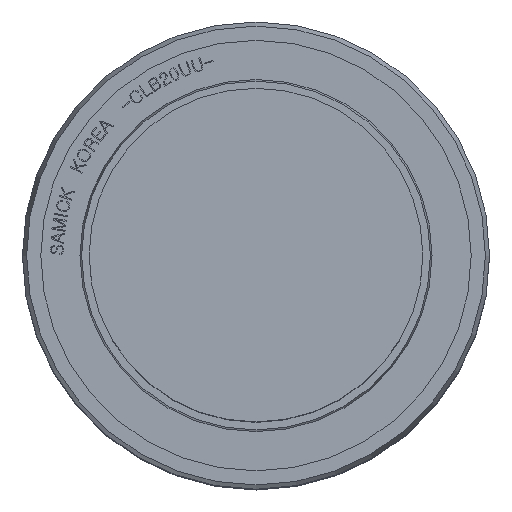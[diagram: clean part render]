
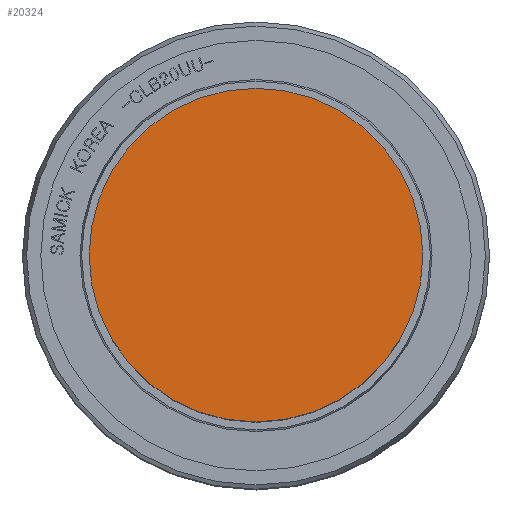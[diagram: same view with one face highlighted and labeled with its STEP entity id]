
A CAD part, top view. The second image highlights one B-rep face of the part: STEP entity #20324.
In plain terms, the highlighted planar face has unit normal (0, 0, 1).
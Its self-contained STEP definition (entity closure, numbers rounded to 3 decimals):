
#781=PLANE('',#21527);
#2599=FACE_OUTER_BOUND('',#3723,.T.);
#3723=EDGE_LOOP('',(#13280));
#7759=CIRCLE('',#21521,10.);
#8107=VERTEX_POINT('',#25459);
#10165=EDGE_CURVE('',#8107,#8107,#7759,.T.);
#13280=ORIENTED_EDGE('',*,*,#10165,.T.);
#20324=ADVANCED_FACE('',(#2599),#781,.T.);
#21521=AXIS2_PLACEMENT_3D('',#25460,#22403,#22404);
#21527=AXIS2_PLACEMENT_3D('',#25471,#22417,#22418);
#22403=DIRECTION('center_axis',(0.,0.,1.));
#22404=DIRECTION('ref_axis',(-1.,0.,0.));
#22417=DIRECTION('center_axis',(0.,0.,1.));
#22418=DIRECTION('ref_axis',(1.,0.,0.));
#25459=CARTESIAN_POINT('',(10.,0.,30.));
#25460=CARTESIAN_POINT('Origin',(0.,0.,30.));
#25471=CARTESIAN_POINT('Origin',(0.,0.,30.));
